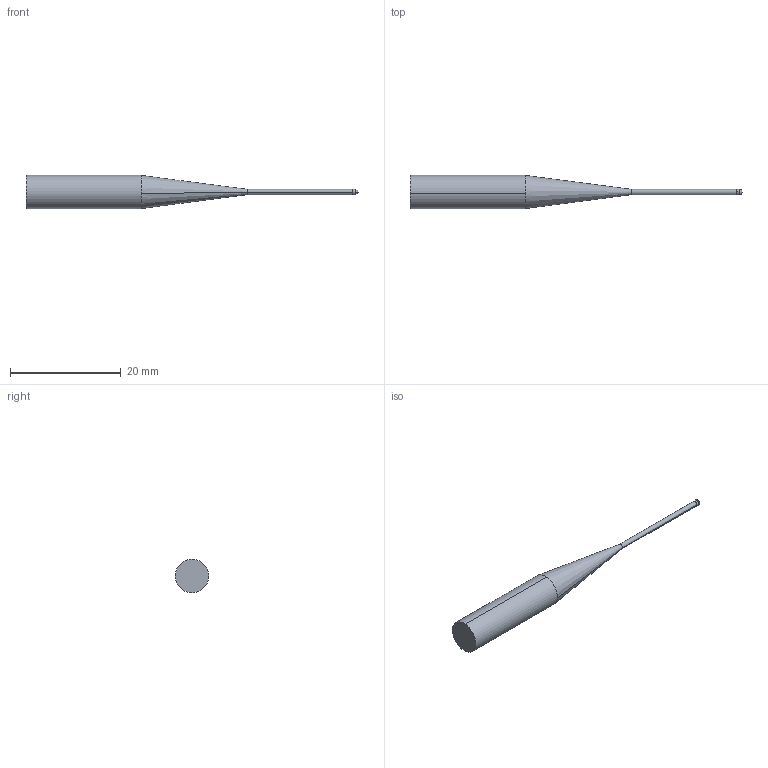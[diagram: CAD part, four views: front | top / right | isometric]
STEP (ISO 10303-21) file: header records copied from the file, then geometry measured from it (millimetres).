
FILE_DESCRIPTION (( 'STEP AP214' ), '1' );
FILE_NAME ('HM70xBNX2001.STEP', '2025-05-20T15:09:10', ( '' ), ( '' ), 'SwSTEP 2.0', 'SolidWorks 2023', '' );
FILE_SCHEMA (( 'AUTOMOTIVE_DESIGN' ));
Length unit declared in the file: millimetre
Products named in the file (3): HM70xBN OD ONLY_HM70xBNX2001; HM70xBNX2001; HM70xBN SHANK ONLY_HM70xBNX2001
Assembly tree (2 placements, depth 2):
  HM70xBNX2001
    HM70xBN OD ONLY_HM70xBNX2001
    HM70xBN SHANK ONLY_HM70xBNX2001
Bounding box: 60 x 5.98 x 5.98 mm (x, y, z)
Volume: 816.7 mm3; surface area: 693.3 mm2
Topology: 2 solids, 2 shells, 13 faces, 28 edges, 17 vertices
Faces by surface type: cylinder 6, plane 3, sphere 2, cone 2
Entity records: 438 total; most frequent: DIRECTION 80, CARTESIAN_POINT 61, ORIENTED_EDGE 52, AXIS2_PLACEMENT_3D 36, EDGE_CURVE 26, CIRCLE 18, VERTEX_POINT 17, ADVANCED_FACE 13
